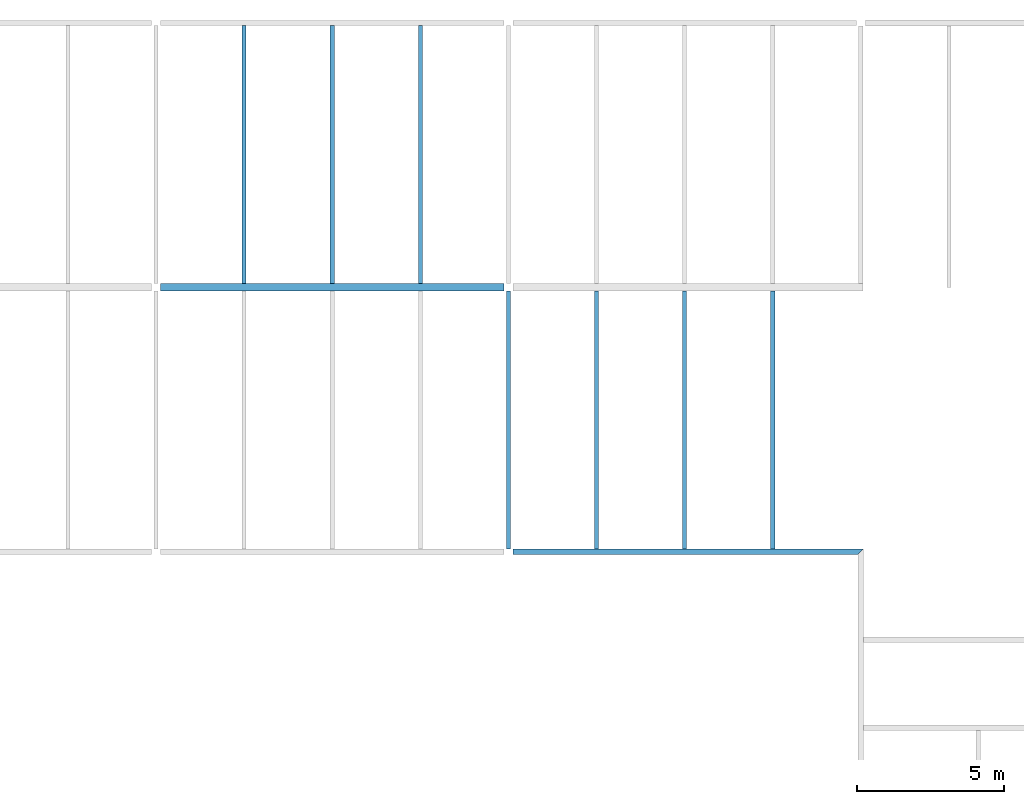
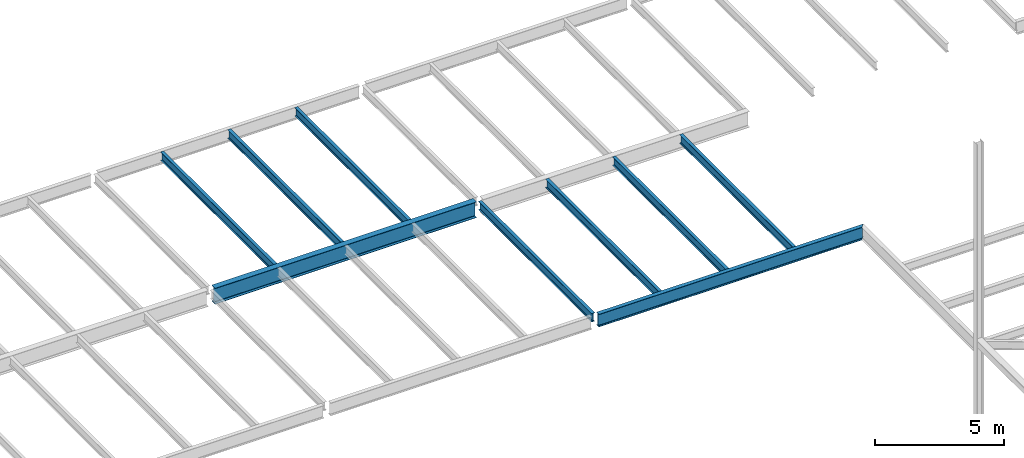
# One storey, part 6 of 21: 9 beams.
"""IFC2X3 building model written with IfcOpenShell, lengths in millimetres."""

import ifcopenshell
import ifcopenshell.guid

model = None  # the IFC model being written
_history = None  # IfcOwnerHistory: only IFC2X3 demands one
_inside = {}  # id of a spatial element -> (the spatial element, [elements in it])
_under = {}  # id of a project, library or spatial element -> (it, [spatial elements below it])
_declared = {}  # id of a project -> (the project, [libraries it declares])
_typed = {}  # id of a type object -> (the type object, [elements of that type])
_made_of = {}  # id of a material, layer set ... -> (it, [elements and type objects made of it])


def new_model(schema):
    """Start an empty IFC model of exactly this schema.

    Asked for "IFC4X3", IfcOpenShell would pick the latest addendum, in which some entities
    have other attributes; the version numbers below select the first issue.
    IFC2X3 requires an IfcOwnerHistory on every rooted entity: one is made here for all.
    """
    global model, _history
    if schema == "IFC4X3":
        model = ifcopenshell.file(schema_version=(4, 3, 0, 0))
    else:
        model = ifcopenshell.file(schema=schema)
    _inside.clear()
    _under.clear()
    _declared.clear()
    _typed.clear()
    _made_of.clear()
    _history = None
    if model.schema == "IFC2X3":
        org = make("IfcOrganization", Name="unknown")
        user = make(
            "IfcPersonAndOrganization",
            ThePerson=make("IfcPerson", FamilyName="unknown"),
            TheOrganization=org,
        )
        app = make(
            "IfcApplication",
            ApplicationDeveloper=org,
            Version="unknown",
            ApplicationFullName="unknown",
            ApplicationIdentifier="unknown",
        )
        _history = make(
            "IfcOwnerHistory",
            OwningUser=user,
            OwningApplication=app,
            ChangeAction="ADDED",
            CreationDate=0,
        )
    return model


def make(cls, **values):
    """One entity of the class cls with the attributes given. An attribute that is None is left unset."""
    return model.create_entity(
        cls, **{name: value for name, value in values.items() if value is not None}
    )


def rooted(cls, **values):
    """An entity with a GlobalId (a new one), such as an element, a storey or a relation."""
    return make(cls, GlobalId=ifcopenshell.guid.new(), OwnerHistory=_history, **values)


def si_unit(unit_type, name, prefix=None):
    """IfcSIUnit, for example si_unit("LENGTHUNIT", "METRE", prefix="MILLI")."""
    return make("IfcSIUnit", UnitType=unit_type, Prefix=prefix, Name=name)


def assignment(units):
    """IfcUnitAssignment: the units of a project."""
    return None if units is None else make("IfcUnitAssignment", Units=units)


def point(xyz):
    """IfcCartesianPoint."""
    return None if xyz is None else make("IfcCartesianPoint", Coordinates=xyz)


def direction(xyz):
    """IfcDirection."""
    return None if xyz is None else make("IfcDirection", DirectionRatios=xyz)


def frame(location, z_axis=None, x_axis=None):
    """IfcAxis2Placement3D, a coordinate frame: its origin and axes. An axis left out is left unset."""
    return make(
        "IfcAxis2Placement3D",
        Location=point(location),
        Axis=direction(z_axis),
        RefDirection=direction(x_axis),
    )


def origin():
    """The frame at (0, 0, 0) with its axes left unset."""
    return frame((0.0, 0.0, 0.0))


def place(relative_to, where):
    """IfcLocalPlacement: puts the frame where relative to a parent placement (None: the world)."""
    return make(
        "IfcLocalPlacement", PlacementRelTo=relative_to, RelativePlacement=where
    )


def context(
    kind, dimensions, precision=None, world=None, true_north=None, identifier=None
):
    """IfcGeometricRepresentationContext, for example the 3D "Model" context."""
    return make(
        "IfcGeometricRepresentationContext",
        ContextIdentifier=identifier,
        ContextType=kind,
        CoordinateSpaceDimension=dimensions,
        Precision=precision,
        WorldCoordinateSystem=world,
        TrueNorth=true_north,
    )


def project(units=None, contexts=None):
    """IfcProject with its units and contexts."""
    return rooted(
        "IfcProject",
        Name="project",
        RepresentationContexts=contexts,
        UnitsInContext=assignment(units),
    )


def spatial(cls, under=None, at=None, **own):
    """A site, building, storey or space (cls), placed at a placement, below another one or the project."""
    s = rooted(cls, ObjectPlacement=at, **own)
    if under is not None:
        _under.setdefault(under.id(), (under, []))[1].append(s)
    return s


def faces_of(points, faces, orient=None, outer=None):
    """IfcFace entities. A face is a list of loops; a loop is a list of indices into points, from 0.

    orient and outer hold one flag for each loop. By default every Orientation is true, the
    first loop of a face is its IfcFaceOuterBound and the others are IfcFaceBound.
    """
    made = []
    for i, loops in enumerate(faces):
        bounds = []
        for j, loop in enumerate(loops):
            is_outer = j == 0 if outer is None else outer[i][j]
            bounds.append(
                make(
                    "IfcFaceOuterBound" if is_outer else "IfcFaceBound",
                    Bound=make("IfcPolyLoop", Polygon=[points[k] for k in loop]),
                    Orientation=True if orient is None else orient[i][j],
                )
            )
        made.append(make("IfcFace", Bounds=bounds))
    return made


def faceted_brep(points, faces, orient=None, outer=None, voids=None):
    """IfcFacetedBrep: a solid bounded by flat faces; with voids (closed shells), ...WithVoids."""
    shared = [point(p) for p in points]
    hull = make("IfcClosedShell", CfsFaces=faces_of(shared, faces, orient, outer))
    if voids is None:
        return make("IfcFacetedBrep", Outer=hull)
    return make(
        "IfcFacetedBrepWithVoids",
        Outer=hull,
        Voids=[
            make(cls, CfsFaces=faces_of(shared, fs, o, b)) for cls, fs, o, b in voids
        ],
    )


def shape(context_of_items, identifier, shape_type, items):
    """IfcShapeRepresentation: the items that make up one representation, for example the "Body"."""
    return make(
        "IfcShapeRepresentation",
        ContextOfItems=context_of_items,
        RepresentationIdentifier=identifier,
        RepresentationType=shape_type,
        Items=items,
    )


def material(Name=None, Category=None):
    """IfcMaterial."""
    return make("IfcMaterial", Name=Name, Category=Category)


def made_of(thing, what):
    """Note that an element or type object is made of a material, layer set ...; save() writes the relation."""
    if what is not None:
        _made_of.setdefault(what.id(), (what, []))[1].append(thing)
    return thing


def element(
    cls,
    number,
    at=None,
    inside=None,
    cuts=None,
    type_object=None,
    material=None,
    context=None,
    identifier="Body",
    shape_type=None,
    held_by="IfcProductDefinitionShape",
    body=None,
    shapes=None,
    **own,
):
    """One element of the class cls, such as IfcWall. Its Tag is "e" and its number.

    at: its placement. inside: the storey or other place that contains it. cuts: it is an
    opening in that element (IfcRelVoidsElement). A single representation is given by context,
    identifier, shape_type and body (its items); several are given by shapes. held_by: the class
    of the entity that holds the representations. save() writes the other relations.
    """
    e = rooted(cls, Tag="e%d" % number, ObjectPlacement=at, **own)
    if body is not None:
        shapes = [shape(context, identifier, shape_type, body)]
    if shapes is not None:
        e.Representation = make(held_by, Representations=shapes)
    if inside is not None:
        _inside.setdefault(inside.id(), (inside, []))[1].append(e)
    if cuts is not None:
        rooted(
            "IfcRelVoidsElement", RelatingBuildingElement=cuts, RelatedOpeningElement=e
        )
    if type_object is not None:
        _typed.setdefault(type_object.id(), (type_object, []))[1].append(e)
    return made_of(e, material)


def aggregate(whole, parts):
    """IfcRelAggregates: a whole, such as a stair, and the parts it consists of."""
    return rooted("IfcRelAggregates", RelatingObject=whole, RelatedObjects=parts)


def save(model, path):
    """Write the relations noted so far, then the file.

    IfcRelAggregates (storeys below a building ...), IfcRelContainedInSpatialStructure (elements
    in a storey), IfcRelDefinesByType, IfcRelAssociatesMaterial and IfcRelDeclares: one each for
    every whole, place, type object, material and project.
    """
    for whole, parts in _under.values():
        aggregate(whole, parts)
    for where, things in _inside.values():
        rooted(
            "IfcRelContainedInSpatialStructure",
            RelatedElements=things,
            RelatingStructure=where,
        )
    for kind, things in _typed.values():
        rooted("IfcRelDefinesByType", RelatedObjects=things, RelatingType=kind)
    for what, things in _made_of.values():
        rooted("IfcRelAssociatesMaterial", RelatedObjects=things, RelatingMaterial=what)
    for by, libraries in _declared.values():
        rooted("IfcRelDeclares", RelatingContext=by, RelatedDefinitions=libraries)
    model.write(path)


model = new_model("IFC2X3")

# Units and contexts
context_of_model = context(None, 3, precision=1e-05, world=origin())
ifc_project = project(units=[si_unit("LENGTHUNIT", "METRE", prefix="MILLI")], contexts=[context_of_model])

# Building, storey
building = spatial("IfcBuilding", under=ifc_project, Name="Building", CompositionType="ELEMENT")
storey = spatial("IfcBuildingStorey", under=building, Name="FL6-FRM", CompositionType="ELEMENT")

# Beams
ifc_material_1 = material(Name="A992")
beam_1_placement = place(None, origin())
element("IfcBeam", 1, at=beam_1_placement, inside=storey, material=ifc_material_1, Name="Column440", context=context_of_model, shape_type="Brep", body=[
    faceted_brep([(-23846.0, 26867.5, 21620.0), (-23846.0, 27132.5, 21620.0), (-12154.0, 27132.5, 21620.0), (-12154.0, 26867.5, 21620.0), (-23846.0, 27132.5, 21637.0), (-12154.0, 27132.5, 21637.0), (-23846.0, 27023.1, 21637.0), (-12154.0, 27023.1, 21637.0), (-23846.0, 27018.8, 21637.6), (-12154.0, 27018.8, 21637.6), (-23846.0, 27014.8, 21639.2), (-12154.0, 27014.8, 21639.2), (-23846.0, 27011.4, 21641.8), (-12154.0, 27011.4, 21641.8), (-23846.0, 27008.8, 21645.2), (-12154.0, 27008.8, 21645.2), (-23846.0, 27007.2, 21649.2), (-12154.0, 27007.2, 21649.2), (-23846.0, 27006.6, 21653.5), (-12154.0, 27006.6, 21653.5), (-23846.0, 27006.6, 22339.5), (-12154.0, 27006.6, 22339.5), (-23846.0, 27007.2, 22343.8), (-12154.0, 27007.2, 22343.8), (-23846.0, 27008.8, 22347.8), (-12154.0, 27008.8, 22347.8), (-23846.0, 27011.4, 22351.2), (-12154.0, 27011.4, 22351.2), (-23846.0, 27014.8, 22353.8), (-12154.0, 27014.8, 22353.8), (-23846.0, 27018.8, 22355.4), (-12154.0, 27018.8, 22355.4), (-23846.0, 27023.1, 22356.0), (-12154.0, 27023.1, 22356.0), (-23846.0, 27132.5, 22356.0), (-12154.0, 27132.5, 22356.0), (-23846.0, 27132.5, 22373.0), (-12154.0, 27132.5, 22373.0), (-23846.0, 26867.5, 22373.0), (-12154.0, 26867.5, 22373.0), (-23846.0, 26867.5, 22356.0), (-12154.0, 26867.5, 22356.0), (-23846.0, 26976.9, 22356.0), (-12154.0, 26976.9, 22356.0), (-23846.0, 26981.2, 22355.4), (-12154.0, 26981.2, 22355.4), (-23846.0, 26985.2, 22353.8), (-12154.0, 26985.2, 22353.8), (-23846.0, 26988.6, 22351.2), (-12154.0, 26988.6, 22351.2), (-23846.0, 26991.2, 22347.8), (-12154.0, 26991.2, 22347.8), (-23846.0, 26992.8, 22343.8), (-12154.0, 26992.8, 22343.8), (-23846.0, 26993.4, 22339.5), (-12154.0, 26993.4, 22339.5), (-23846.0, 26993.4, 21653.5), (-12154.0, 26993.4, 21653.5), (-23846.0, 26992.8, 21649.2), (-12154.0, 26992.8, 21649.2), (-23846.0, 26991.2, 21645.3), (-12154.0, 26991.2, 21645.3), (-23846.0, 26988.6, 21641.8), (-12154.0, 26988.6, 21641.8), (-23846.0, 26985.2, 21639.2), (-12154.0, 26985.2, 21639.2), (-23846.0, 26981.2, 21637.6), (-12154.0, 26981.2, 21637.6), (-23846.0, 26976.9, 21637.0), (-12154.0, 26976.9, 21637.0), (-23846.0, 26867.5, 21637.0), (-12154.0, 26867.5, 21637.0)], [[[0, 1, 2, 3]], [[1, 4, 5, 2]], [[4, 6, 7, 5]], [[6, 8, 9, 7]], [[8, 10, 11, 9]], [[10, 12, 13, 11]], [[12, 14, 15, 13]], [[14, 16, 17, 15]], [[16, 18, 19, 17]], [[18, 20, 21, 19]], [[20, 22, 23, 21]], [[22, 24, 25, 23]], [[24, 26, 27, 25]], [[26, 28, 29, 27]], [[28, 30, 31, 29]], [[30, 32, 33, 31]], [[32, 34, 35, 33]], [[34, 36, 37, 35]], [[36, 38, 39, 37]], [[38, 40, 41, 39]], [[40, 42, 43, 41]], [[42, 44, 45, 43]], [[44, 46, 47, 45]], [[46, 48, 49, 47]], [[48, 50, 51, 49]], [[50, 52, 53, 51]], [[52, 54, 55, 53]], [[54, 56, 57, 55]], [[56, 58, 59, 57]], [[58, 60, 61, 59]], [[60, 62, 63, 61]], [[62, 64, 65, 63]], [[64, 66, 67, 65]], [[66, 68, 69, 67]], [[68, 70, 71, 69]], [[70, 0, 3, 71]], [[0, 70, 68, 66, 64, 62, 60, 58, 56, 54, 52, 50, 48, 46, 44, 42, 40, 38, 36, 34, 32, 30, 28, 26, 24, 22, 20, 18, 16, 14, 12, 10, 8, 6, 4, 1]], [[3, 2, 5, 7, 9, 11, 13, 15, 17, 19, 21, 23, 25, 27, 29, 31, 33, 35, 37, 39, 41, 43, 45, 47, 49, 51, 53, 55, 57, 59, 61, 63, 65, 67, 69, 71]]]),
])
ifc_material_2 = material(Name="A992")
beam_2_placement = place(None, origin())
element("IfcBeam", 2, at=beam_2_placement, inside=storey, material=ifc_material_2, Name="B362", context=context_of_model, shape_type="Brep", body=[
    faceted_brep([(-21070.0, 35910.5, 21970.0), (-20930.0, 35910.5, 21970.0), (-20930.0, 27132.5, 21970.0), (-21070.0, 27132.5, 21970.0), (-20930.0, 35910.5, 21981.2), (-20930.0, 27132.5, 21981.2), (-20986.3, 35910.5, 21981.2), (-20986.3, 27132.5, 21981.2), (-20988.9, 35910.5, 21981.5), (-20988.9, 27132.5, 21981.5), (-20991.4, 35910.5, 21982.6), (-20991.4, 27132.5, 21982.6), (-20993.5, 35910.5, 21984.2), (-20993.5, 27132.5, 21984.2), (-20995.1, 35910.5, 21986.3), (-20995.1, 27132.5, 21986.3), (-20996.2, 35910.5, 21988.8), (-20996.2, 27132.5, 21988.8), (-20996.5, 35910.5, 21991.4), (-20996.5, 27132.5, 21991.4), (-20996.5, 35910.5, 22351.6), (-20996.5, 27132.5, 22351.6), (-20996.2, 35910.5, 22354.2), (-20996.2, 27132.5, 22354.2), (-20995.1, 35910.5, 22356.7), (-20995.1, 27132.5, 22356.7), (-20993.5, 35910.5, 22358.8), (-20993.5, 27132.5, 22358.8), (-20991.4, 35910.5, 22360.4), (-20991.4, 27132.5, 22360.4), (-20988.9, 35910.5, 22361.5), (-20988.9, 27132.5, 22361.5), (-20986.3, 35910.5, 22361.8), (-20986.3, 27132.5, 22361.8), (-20930.0, 35910.5, 22361.8), (-20930.0, 27132.5, 22361.8), (-20930.0, 35910.5, 22373.0), (-20930.0, 27132.5, 22373.0), (-21070.0, 35910.5, 22373.0), (-21070.0, 27132.5, 22373.0), (-21070.0, 35910.5, 22361.8), (-21070.0, 27132.5, 22361.8), (-21013.7, 35910.5, 22361.8), (-21013.7, 27132.5, 22361.8), (-21011.1, 35910.5, 22361.5), (-21011.1, 27132.5, 22361.5), (-21008.6, 35910.5, 22360.4), (-21008.6, 27132.5, 22360.4), (-21006.5, 35910.5, 22358.8), (-21006.5, 27132.5, 22358.8), (-21004.9, 35910.5, 22356.7), (-21004.9, 27132.5, 22356.7), (-21003.8, 35910.5, 22354.2), (-21003.8, 27132.5, 22354.2), (-21003.5, 35910.5, 22351.6), (-21003.5, 27132.5, 22351.6), (-21003.5, 35910.5, 21991.4), (-21003.5, 27132.5, 21991.4), (-21003.8, 35910.5, 21988.8), (-21003.8, 27132.5, 21988.8), (-21004.9, 35910.5, 21986.3), (-21004.9, 27132.5, 21986.3), (-21006.5, 35910.5, 21984.2), (-21006.5, 27132.5, 21984.2), (-21008.6, 35910.5, 21982.6), (-21008.6, 27132.5, 21982.6), (-21011.1, 35910.5, 21981.5), (-21011.1, 27132.5, 21981.5), (-21013.7, 35910.5, 21981.2), (-21013.7, 27132.5, 21981.2), (-21070.0, 35910.5, 21981.2), (-21070.0, 27132.5, 21981.2)], [[[0, 1, 2, 3]], [[1, 4, 5, 2]], [[4, 6, 7, 5]], [[6, 8, 9, 7]], [[8, 10, 11, 9]], [[10, 12, 13, 11]], [[12, 14, 15, 13]], [[14, 16, 17, 15]], [[16, 18, 19, 17]], [[18, 20, 21, 19]], [[20, 22, 23, 21]], [[22, 24, 25, 23]], [[24, 26, 27, 25]], [[26, 28, 29, 27]], [[28, 30, 31, 29]], [[30, 32, 33, 31]], [[32, 34, 35, 33]], [[34, 36, 37, 35]], [[36, 38, 39, 37]], [[38, 40, 41, 39]], [[40, 42, 43, 41]], [[42, 44, 45, 43]], [[44, 46, 47, 45]], [[46, 48, 49, 47]], [[48, 50, 51, 49]], [[50, 52, 53, 51]], [[52, 54, 55, 53]], [[54, 56, 57, 55]], [[56, 58, 59, 57]], [[58, 60, 61, 59]], [[60, 62, 63, 61]], [[62, 64, 65, 63]], [[64, 66, 67, 65]], [[66, 68, 69, 67]], [[68, 70, 71, 69]], [[70, 0, 3, 71]], [[0, 70, 68, 66, 64, 62, 60, 58, 56, 54, 52, 50, 48, 46, 44, 42, 40, 38, 36, 34, 32, 30, 28, 26, 24, 22, 20, 18, 16, 14, 12, 10, 8, 6, 4, 1]], [[3, 2, 5, 7, 9, 11, 13, 15, 17, 19, 21, 23, 25, 27, 29, 31, 33, 35, 37, 39, 41, 43, 45, 47, 49, 51, 53, 55, 57, 59, 61, 63, 65, 67, 69, 71]]]),
])
ifc_material_3 = material(Name="A992")
beam_3_placement = place(None, origin())
element("IfcBeam", 3, at=beam_3_placement, inside=storey, material=ifc_material_3, Name="B363", context=context_of_model, shape_type="Brep", body=[
    faceted_brep([(-18070.0, 35910.5, 21970.0), (-17930.0, 35910.5, 21970.0), (-17930.0, 27132.5, 21970.0), (-18070.0, 27132.5, 21970.0), (-17930.0, 35910.5, 21981.2), (-17930.0, 27132.5, 21981.2), (-17986.3, 35910.5, 21981.2), (-17986.3, 27132.5, 21981.2), (-17988.9, 35910.5, 21981.5), (-17988.9, 27132.5, 21981.5), (-17991.4, 35910.5, 21982.6), (-17991.4, 27132.5, 21982.6), (-17993.5, 35910.5, 21984.2), (-17993.5, 27132.5, 21984.2), (-17995.1, 35910.5, 21986.3), (-17995.1, 27132.5, 21986.3), (-17996.2, 35910.5, 21988.8), (-17996.2, 27132.5, 21988.8), (-17996.5, 35910.5, 21991.4), (-17996.5, 27132.5, 21991.4), (-17996.5, 35910.5, 22351.6), (-17996.5, 27132.5, 22351.6), (-17996.2, 35910.5, 22354.2), (-17996.2, 27132.5, 22354.2), (-17995.1, 35910.5, 22356.7), (-17995.1, 27132.5, 22356.7), (-17993.5, 35910.5, 22358.8), (-17993.5, 27132.5, 22358.8), (-17991.4, 35910.5, 22360.4), (-17991.4, 27132.5, 22360.4), (-17988.9, 35910.5, 22361.5), (-17988.9, 27132.5, 22361.5), (-17986.3, 35910.5, 22361.8), (-17986.3, 27132.5, 22361.8), (-17930.0, 35910.5, 22361.8), (-17930.0, 27132.5, 22361.8), (-17930.0, 35910.5, 22373.0), (-17930.0, 27132.5, 22373.0), (-18070.0, 35910.5, 22373.0), (-18070.0, 27132.5, 22373.0), (-18070.0, 35910.5, 22361.8), (-18070.0, 27132.5, 22361.8), (-18013.7, 35910.5, 22361.8), (-18013.7, 27132.5, 22361.8), (-18011.1, 35910.5, 22361.5), (-18011.1, 27132.5, 22361.5), (-18008.6, 35910.5, 22360.4), (-18008.6, 27132.5, 22360.4), (-18006.5, 35910.5, 22358.8), (-18006.5, 27132.5, 22358.8), (-18004.9, 35910.5, 22356.7), (-18004.9, 27132.5, 22356.7), (-18003.8, 35910.5, 22354.2), (-18003.8, 27132.5, 22354.2), (-18003.5, 35910.5, 22351.6), (-18003.5, 27132.5, 22351.6), (-18003.5, 35910.5, 21991.4), (-18003.5, 27132.5, 21991.4), (-18003.8, 35910.5, 21988.8), (-18003.8, 27132.5, 21988.8), (-18004.9, 35910.5, 21986.3), (-18004.9, 27132.5, 21986.3), (-18006.5, 35910.5, 21984.2), (-18006.5, 27132.5, 21984.2), (-18008.6, 35910.5, 21982.6), (-18008.6, 27132.5, 21982.6), (-18011.1, 35910.5, 21981.5), (-18011.1, 27132.5, 21981.5), (-18013.7, 35910.5, 21981.2), (-18013.7, 27132.5, 21981.2), (-18070.0, 35910.5, 21981.2), (-18070.0, 27132.5, 21981.2)], [[[0, 1, 2, 3]], [[1, 4, 5, 2]], [[4, 6, 7, 5]], [[6, 8, 9, 7]], [[8, 10, 11, 9]], [[10, 12, 13, 11]], [[12, 14, 15, 13]], [[14, 16, 17, 15]], [[16, 18, 19, 17]], [[18, 20, 21, 19]], [[20, 22, 23, 21]], [[22, 24, 25, 23]], [[24, 26, 27, 25]], [[26, 28, 29, 27]], [[28, 30, 31, 29]], [[30, 32, 33, 31]], [[32, 34, 35, 33]], [[34, 36, 37, 35]], [[36, 38, 39, 37]], [[38, 40, 41, 39]], [[40, 42, 43, 41]], [[42, 44, 45, 43]], [[44, 46, 47, 45]], [[46, 48, 49, 47]], [[48, 50, 51, 49]], [[50, 52, 53, 51]], [[52, 54, 55, 53]], [[54, 56, 57, 55]], [[56, 58, 59, 57]], [[58, 60, 61, 59]], [[60, 62, 63, 61]], [[62, 64, 65, 63]], [[64, 66, 67, 65]], [[66, 68, 69, 67]], [[68, 70, 71, 69]], [[70, 0, 3, 71]], [[0, 70, 68, 66, 64, 62, 60, 58, 56, 54, 52, 50, 48, 46, 44, 42, 40, 38, 36, 34, 32, 30, 28, 26, 24, 22, 20, 18, 16, 14, 12, 10, 8, 6, 4, 1]], [[3, 2, 5, 7, 9, 11, 13, 15, 17, 19, 21, 23, 25, 27, 29, 31, 33, 35, 37, 39, 41, 43, 45, 47, 49, 51, 53, 55, 57, 59, 61, 63, 65, 67, 69, 71]]]),
])
ifc_material_4 = material(Name="A992")
beam_4_placement = place(None, origin())
element("IfcBeam", 4, at=beam_4_placement, inside=storey, material=ifc_material_4, Name="B364", context=context_of_model, shape_type="Brep", body=[
    faceted_brep([(-15070.0, 35910.5, 21970.0), (-14930.0, 35910.5, 21970.0), (-14930.0, 27132.5, 21970.0), (-15070.0, 27132.5, 21970.0), (-14930.0, 35910.5, 21981.2), (-14930.0, 27132.5, 21981.2), (-14986.3, 35910.5, 21981.2), (-14986.3, 27132.5, 21981.2), (-14988.9, 35910.5, 21981.5), (-14988.9, 27132.5, 21981.5), (-14991.4, 35910.5, 21982.6), (-14991.4, 27132.5, 21982.6), (-14993.5, 35910.5, 21984.2), (-14993.5, 27132.5, 21984.2), (-14995.1, 35910.5, 21986.3), (-14995.1, 27132.5, 21986.3), (-14996.2, 35910.5, 21988.8), (-14996.2, 27132.5, 21988.8), (-14996.5, 35910.5, 21991.4), (-14996.5, 27132.5, 21991.4), (-14996.5, 35910.5, 22351.6), (-14996.5, 27132.5, 22351.6), (-14996.2, 35910.5, 22354.2), (-14996.2, 27132.5, 22354.2), (-14995.1, 35910.5, 22356.7), (-14995.1, 27132.5, 22356.7), (-14993.5, 35910.5, 22358.8), (-14993.5, 27132.5, 22358.8), (-14991.4, 35910.5, 22360.4), (-14991.4, 27132.5, 22360.4), (-14988.9, 35910.5, 22361.5), (-14988.9, 27132.5, 22361.5), (-14986.3, 35910.5, 22361.8), (-14986.3, 27132.5, 22361.8), (-14930.0, 35910.5, 22361.8), (-14930.0, 27132.5, 22361.8), (-14930.0, 35910.5, 22373.0), (-14930.0, 27132.5, 22373.0), (-15070.0, 35910.5, 22373.0), (-15070.0, 27132.5, 22373.0), (-15070.0, 35910.5, 22361.8), (-15070.0, 27132.5, 22361.8), (-15013.7, 35910.5, 22361.8), (-15013.7, 27132.5, 22361.8), (-15011.1, 35910.5, 22361.5), (-15011.1, 27132.5, 22361.5), (-15008.6, 35910.5, 22360.4), (-15008.6, 27132.5, 22360.4), (-15006.5, 35910.5, 22358.8), (-15006.5, 27132.5, 22358.8), (-15004.9, 35910.5, 22356.7), (-15004.9, 27132.5, 22356.7), (-15003.8, 35910.5, 22354.2), (-15003.8, 27132.5, 22354.2), (-15003.5, 35910.5, 22351.6), (-15003.5, 27132.5, 22351.6), (-15003.5, 35910.5, 21991.4), (-15003.5, 27132.5, 21991.4), (-15003.8, 35910.5, 21988.8), (-15003.8, 27132.5, 21988.8), (-15004.9, 35910.5, 21986.3), (-15004.9, 27132.5, 21986.3), (-15006.5, 35910.5, 21984.2), (-15006.5, 27132.5, 21984.2), (-15008.6, 35910.5, 21982.6), (-15008.6, 27132.5, 21982.6), (-15011.1, 35910.5, 21981.5), (-15011.1, 27132.5, 21981.5), (-15013.7, 35910.5, 21981.2), (-15013.7, 27132.5, 21981.2), (-15070.0, 35910.5, 21981.2), (-15070.0, 27132.5, 21981.2)], [[[0, 1, 2, 3]], [[1, 4, 5, 2]], [[4, 6, 7, 5]], [[6, 8, 9, 7]], [[8, 10, 11, 9]], [[10, 12, 13, 11]], [[12, 14, 15, 13]], [[14, 16, 17, 15]], [[16, 18, 19, 17]], [[18, 20, 21, 19]], [[20, 22, 23, 21]], [[22, 24, 25, 23]], [[24, 26, 27, 25]], [[26, 28, 29, 27]], [[28, 30, 31, 29]], [[30, 32, 33, 31]], [[32, 34, 35, 33]], [[34, 36, 37, 35]], [[36, 38, 39, 37]], [[38, 40, 41, 39]], [[40, 42, 43, 41]], [[42, 44, 45, 43]], [[44, 46, 47, 45]], [[46, 48, 49, 47]], [[48, 50, 51, 49]], [[50, 52, 53, 51]], [[52, 54, 55, 53]], [[54, 56, 57, 55]], [[56, 58, 59, 57]], [[58, 60, 61, 59]], [[60, 62, 63, 61]], [[62, 64, 65, 63]], [[64, 66, 67, 65]], [[66, 68, 69, 67]], [[68, 70, 71, 69]], [[70, 0, 3, 71]], [[0, 70, 68, 66, 64, 62, 60, 58, 56, 54, 52, 50, 48, 46, 44, 42, 40, 38, 36, 34, 32, 30, 28, 26, 24, 22, 20, 18, 16, 14, 12, 10, 8, 6, 4, 1]], [[3, 2, 5, 7, 9, 11, 13, 15, 17, 19, 21, 23, 25, 27, 29, 31, 33, 35, 37, 39, 41, 43, 45, 47, 49, 51, 53, 55, 57, 59, 61, 63, 65, 67, 69, 71]]]),
])
ifc_material_5 = material(Name="A992")
beam_5_placement = place(None, origin())
element("IfcBeam", 5, at=beam_5_placement, inside=storey, material=ifc_material_5, Name="Column450", context=context_of_model, shape_type="Brep", body=[
    faceted_brep([(-11847.0, 17910.5, 21770.0), (-11847.0, 18089.5, 21770.0), (89.5, 18089.5, 21770.0), (-89.5, 17910.5, 21770.0), (-11847.0, 18089.5, 21785.0), (89.5, 18089.5, 21785.0), (-11847.0, 18020.6, 21785.0), (20.65, 18020.6, 21785.0), (-11847.0, 18018.3, 21785.2), (18.2948, 18018.3, 21785.2), (-11847.0, 18016.0, 21785.7), (15.9715, 18016.0, 21785.7), (-11847.0, 18013.7, 21786.7), (13.79, 18013.8, 21786.6), (-11847.0, 18011.7, 21787.9), (11.7678, 18011.8, 21787.8), (-11847.0, 18009.9, 21789.5), (9.90198, 18009.9, 21789.5), (-11847.0, 18008.4, 21791.3), (8.40658, 18008.4, 21791.2), (-11847.0, 18007.1, 21793.3), (7.12308, 18007.1, 21793.2), (-11847.0, 18006.2, 21795.5), (6.22803, 18006.2, 21795.5), (-11847.0, 18005.6, 21797.8), (5.68758, 18005.7, 21797.8), (-11847.0, 18005.4, 21800.2), (5.45, 18005.4, 21800.2), (-11847.0, 18005.4, 22342.8), (5.45, 18005.4, 22342.8), (-11847.0, 18005.6, 22345.2), (5.68758, 18005.7, 22345.2), (-11847.0, 18006.2, 22347.5), (6.22803, 18006.2, 22347.5), (-11847.0, 18007.1, 22349.7), (7.12308, 18007.1, 22349.8), (-11847.0, 18008.4, 22351.7), (8.40658, 18008.4, 22351.8), (-11847.0, 18009.9, 22353.5), (9.90198, 18009.9, 22353.5), (-11847.0, 18011.7, 22355.1), (11.7678, 18011.8, 22355.2), (-11847.0, 18013.7, 22356.3), (13.79, 18013.8, 22356.4), (-11847.0, 18016.0, 22357.3), (15.9715, 18016.0, 22357.3), (-11847.0, 18018.3, 22357.8), (18.2948, 18018.3, 22357.8), (-11847.0, 18020.6, 22358.0), (20.65, 18020.6, 22358.0), (-11847.0, 18089.5, 22358.0), (89.5, 18089.5, 22358.0), (-11847.0, 18089.5, 22373.0), (89.5, 18089.5, 22373.0), (-11847.0, 17910.5, 22373.0), (-89.5, 17910.5, 22373.0), (-11847.0, 17910.5, 22358.0), (-89.5, 17910.5, 22358.0), (-11847.0, 17979.4, 22358.0), (-20.65, 17979.4, 22358.0), (-11847.0, 17981.7, 22357.8), (-18.2948, 17981.7, 22357.8), (-11847.0, 17984.0, 22357.3), (-15.9715, 17984.0, 22357.3), (-11847.0, 17986.3, 22356.3), (-13.79, 17986.2, 22356.4), (-11847.0, 17988.3, 22355.1), (-11.7678, 17988.2, 22355.2), (-11847.0, 17990.1, 22353.5), (-9.90198, 17990.1, 22353.5), (-11847.0, 17991.6, 22351.7), (-8.40658, 17991.6, 22351.8), (-11847.0, 17992.9, 22349.7), (-7.12308, 17992.9, 22349.8), (-11847.0, 17993.8, 22347.5), (-6.22803, 17993.8, 22347.5), (-11847.0, 17994.4, 22345.2), (-5.68758, 17994.3, 22345.2), (-11847.0, 17994.6, 22342.8), (-5.45, 17994.6, 22342.8), (-11847.0, 17994.6, 21800.2), (-5.45, 17994.6, 21800.2), (-11847.0, 17994.4, 21797.8), (-5.68758, 17994.3, 21797.8), (-11847.0, 17993.8, 21795.5), (-6.22803, 17993.8, 21795.5), (-11847.0, 17992.9, 21793.3), (-7.12308, 17992.9, 21793.2), (-11847.0, 17991.6, 21791.3), (-8.40658, 17991.6, 21791.2), (-11847.0, 17990.1, 21789.5), (-9.90198, 17990.1, 21789.5), (-11847.0, 17988.3, 21787.9), (-11.7678, 17988.2, 21787.8), (-11847.0, 17986.3, 21786.7), (-13.79, 17986.2, 21786.6), (-11847.0, 17984.0, 21785.7), (-15.9715, 17984.0, 21785.7), (-11847.0, 17981.7, 21785.2), (-18.2948, 17981.7, 21785.2), (-11847.0, 17979.4, 21785.0), (-20.65, 17979.4, 21785.0), (-11847.0, 17910.5, 21785.0), (-89.5, 17910.5, 21785.0)], [[[0, 1, 2, 3]], [[1, 4, 5, 2]], [[4, 6, 7, 5]], [[6, 8, 9, 7]], [[8, 10, 11, 9]], [[10, 12, 13, 11]], [[12, 14, 15, 13]], [[14, 16, 17, 15]], [[16, 18, 19, 17]], [[18, 20, 21, 19]], [[20, 22, 23, 21]], [[22, 24, 25, 23]], [[24, 26, 27, 25]], [[26, 28, 29, 27]], [[28, 30, 31, 29]], [[30, 32, 33, 31]], [[32, 34, 35, 33]], [[34, 36, 37, 35]], [[36, 38, 39, 37]], [[38, 40, 41, 39]], [[40, 42, 43, 41]], [[42, 44, 45, 43]], [[44, 46, 47, 45]], [[46, 48, 49, 47]], [[48, 50, 51, 49]], [[50, 52, 53, 51]], [[52, 54, 55, 53]], [[54, 56, 57, 55]], [[56, 58, 59, 57]], [[58, 60, 61, 59]], [[60, 62, 63, 61]], [[62, 64, 65, 63]], [[64, 66, 67, 65]], [[66, 68, 69, 67]], [[68, 70, 71, 69]], [[70, 72, 73, 71]], [[72, 74, 75, 73]], [[74, 76, 77, 75]], [[76, 78, 79, 77]], [[78, 80, 81, 79]], [[80, 82, 83, 81]], [[82, 84, 85, 83]], [[84, 86, 87, 85]], [[86, 88, 89, 87]], [[88, 90, 91, 89]], [[90, 92, 93, 91]], [[92, 94, 95, 93]], [[94, 96, 97, 95]], [[96, 98, 99, 97]], [[98, 100, 101, 99]], [[100, 102, 103, 101]], [[102, 0, 3, 103]], [[0, 102, 100, 98, 96, 94, 92, 90, 88, 86, 84, 82, 80, 78, 76, 74, 72, 70, 68, 66, 64, 62, 60, 58, 56, 54, 52, 50, 48, 46, 44, 42, 40, 38, 36, 34, 32, 30, 28, 26, 24, 22, 20, 18, 16, 14, 12, 10, 8, 6, 4, 1]], [[3, 2, 5, 7, 9, 11, 13, 15, 17, 19, 21, 23, 25, 27, 29, 31, 33, 35, 37, 39, 41, 43, 45, 47, 49, 51, 53, 55, 57, 59, 61, 63, 65, 67, 69, 71, 73, 75, 77, 79, 81, 83, 85, 87, 89, 91, 93, 95, 97, 99, 101, 103]]]),
])
ifc_material_6 = material(Name="A992")
beam_6_placement = place(None, origin())
element("IfcBeam", 6, at=beam_6_placement, inside=storey, material=ifc_material_6, Name="B377", context=context_of_model, shape_type="Brep", body=[
    faceted_brep([(-2930.0, 18089.5, 21970.0), (-3070.0, 18089.5, 21970.0), (-3070.0, 26867.5, 21970.0), (-2930.0, 26867.5, 21970.0), (-3070.0, 18089.5, 21981.2), (-3070.0, 26867.5, 21981.2), (-3013.7, 18089.5, 21981.2), (-3013.7, 26867.5, 21981.2), (-3011.06, 18089.5, 21981.5), (-3011.06, 26867.5, 21981.5), (-3008.6, 18089.5, 21982.6), (-3008.6, 26867.5, 21982.6), (-3006.49, 18089.5, 21984.2), (-3006.49, 26867.5, 21984.2), (-3004.87, 18089.5, 21986.3), (-3004.87, 26867.5, 21986.3), (-3003.85, 18089.5, 21988.8), (-3003.85, 26867.5, 21988.8), (-3003.5, 18089.5, 21991.4), (-3003.5, 26867.5, 21991.4), (-3003.5, 18089.5, 22351.6), (-3003.5, 26867.5, 22351.6), (-3003.85, 18089.5, 22354.2), (-3003.85, 26867.5, 22354.2), (-3004.87, 18089.5, 22356.7), (-3004.87, 26867.5, 22356.7), (-3006.49, 18089.5, 22358.8), (-3006.49, 26867.5, 22358.8), (-3008.6, 18089.5, 22360.4), (-3008.6, 26867.5, 22360.4), (-3011.06, 18089.5, 22361.5), (-3011.06, 26867.5, 22361.5), (-3013.7, 18089.5, 22361.8), (-3013.7, 26867.5, 22361.8), (-3070.0, 18089.5, 22361.8), (-3070.0, 26867.5, 22361.8), (-3070.0, 18089.5, 22373.0), (-3070.0, 26867.5, 22373.0), (-2930.0, 18089.5, 22373.0), (-2930.0, 26867.5, 22373.0), (-2930.0, 18089.5, 22361.8), (-2930.0, 26867.5, 22361.8), (-2986.3, 18089.5, 22361.8), (-2986.3, 26867.5, 22361.8), (-2988.94, 18089.5, 22361.5), (-2988.94, 26867.5, 22361.5), (-2991.4, 18089.5, 22360.4), (-2991.4, 26867.5, 22360.4), (-2993.51, 18089.5, 22358.8), (-2993.51, 26867.5, 22358.8), (-2995.13, 18089.5, 22356.7), (-2995.13, 26867.5, 22356.7), (-2996.15, 18089.5, 22354.2), (-2996.15, 26867.5, 22354.2), (-2996.5, 18089.5, 22351.6), (-2996.5, 26867.5, 22351.6), (-2996.5, 18089.5, 21991.4), (-2996.5, 26867.5, 21991.4), (-2996.15, 18089.5, 21988.8), (-2996.15, 26867.5, 21988.8), (-2995.13, 18089.5, 21986.3), (-2995.13, 26867.5, 21986.3), (-2993.51, 18089.5, 21984.2), (-2993.51, 26867.5, 21984.2), (-2991.4, 18089.5, 21982.6), (-2991.4, 26867.5, 21982.6), (-2988.94, 18089.5, 21981.5), (-2988.94, 26867.5, 21981.5), (-2986.3, 18089.5, 21981.2), (-2986.3, 26867.5, 21981.2), (-2930.0, 18089.5, 21981.2), (-2930.0, 26867.5, 21981.2)], [[[0, 1, 2, 3]], [[1, 4, 5, 2]], [[4, 6, 7, 5]], [[6, 8, 9, 7]], [[8, 10, 11, 9]], [[10, 12, 13, 11]], [[12, 14, 15, 13]], [[14, 16, 17, 15]], [[16, 18, 19, 17]], [[18, 20, 21, 19]], [[20, 22, 23, 21]], [[22, 24, 25, 23]], [[24, 26, 27, 25]], [[26, 28, 29, 27]], [[28, 30, 31, 29]], [[30, 32, 33, 31]], [[32, 34, 35, 33]], [[34, 36, 37, 35]], [[36, 38, 39, 37]], [[38, 40, 41, 39]], [[40, 42, 43, 41]], [[42, 44, 45, 43]], [[44, 46, 47, 45]], [[46, 48, 49, 47]], [[48, 50, 51, 49]], [[50, 52, 53, 51]], [[52, 54, 55, 53]], [[54, 56, 57, 55]], [[56, 58, 59, 57]], [[58, 60, 61, 59]], [[60, 62, 63, 61]], [[62, 64, 65, 63]], [[64, 66, 67, 65]], [[66, 68, 69, 67]], [[68, 70, 71, 69]], [[70, 0, 3, 71]], [[0, 70, 68, 66, 64, 62, 60, 58, 56, 54, 52, 50, 48, 46, 44, 42, 40, 38, 36, 34, 32, 30, 28, 26, 24, 22, 20, 18, 16, 14, 12, 10, 8, 6, 4, 1]], [[3, 2, 5, 7, 9, 11, 13, 15, 17, 19, 21, 23, 25, 27, 29, 31, 33, 35, 37, 39, 41, 43, 45, 47, 49, 51, 53, 55, 57, 59, 61, 63, 65, 67, 69, 71]]]),
])
ifc_material_7 = material(Name="A992")
beam_7_placement = place(None, origin())
element("IfcBeam", 7, at=beam_7_placement, inside=storey, material=ifc_material_7, Name="B378", context=context_of_model, shape_type="Brep", body=[
    faceted_brep([(-5930.0, 18089.5, 21970.0), (-6070.0, 18089.5, 21970.0), (-6070.0, 26867.5, 21970.0), (-5930.0, 26867.5, 21970.0), (-6070.0, 18089.5, 21981.2), (-6070.0, 26867.5, 21981.2), (-6013.7, 18089.5, 21981.2), (-6013.7, 26867.5, 21981.2), (-6011.06, 18089.5, 21981.5), (-6011.06, 26867.5, 21981.5), (-6008.6, 18089.5, 21982.6), (-6008.6, 26867.5, 21982.6), (-6006.49, 18089.5, 21984.2), (-6006.49, 26867.5, 21984.2), (-6004.87, 18089.5, 21986.3), (-6004.87, 26867.5, 21986.3), (-6003.85, 18089.5, 21988.8), (-6003.85, 26867.5, 21988.8), (-6003.5, 18089.5, 21991.4), (-6003.5, 26867.5, 21991.4), (-6003.5, 18089.5, 22351.6), (-6003.5, 26867.5, 22351.6), (-6003.85, 18089.5, 22354.2), (-6003.85, 26867.5, 22354.2), (-6004.87, 18089.5, 22356.7), (-6004.87, 26867.5, 22356.7), (-6006.49, 18089.5, 22358.8), (-6006.49, 26867.5, 22358.8), (-6008.6, 18089.5, 22360.4), (-6008.6, 26867.5, 22360.4), (-6011.06, 18089.5, 22361.5), (-6011.06, 26867.5, 22361.5), (-6013.7, 18089.5, 22361.8), (-6013.7, 26867.5, 22361.8), (-6070.0, 18089.5, 22361.8), (-6070.0, 26867.5, 22361.8), (-6070.0, 18089.5, 22373.0), (-6070.0, 26867.5, 22373.0), (-5930.0, 18089.5, 22373.0), (-5930.0, 26867.5, 22373.0), (-5930.0, 18089.5, 22361.8), (-5930.0, 26867.5, 22361.8), (-5986.3, 18089.5, 22361.8), (-5986.3, 26867.5, 22361.8), (-5988.94, 18089.5, 22361.5), (-5988.94, 26867.5, 22361.5), (-5991.4, 18089.5, 22360.4), (-5991.4, 26867.5, 22360.4), (-5993.51, 18089.5, 22358.8), (-5993.51, 26867.5, 22358.8), (-5995.13, 18089.5, 22356.7), (-5995.13, 26867.5, 22356.7), (-5996.15, 18089.5, 22354.2), (-5996.15, 26867.5, 22354.2), (-5996.5, 18089.5, 22351.6), (-5996.5, 26867.5, 22351.6), (-5996.5, 18089.5, 21991.4), (-5996.5, 26867.5, 21991.4), (-5996.15, 18089.5, 21988.8), (-5996.15, 26867.5, 21988.8), (-5995.13, 18089.5, 21986.3), (-5995.13, 26867.5, 21986.3), (-5993.51, 18089.5, 21984.2), (-5993.51, 26867.5, 21984.2), (-5991.4, 18089.5, 21982.6), (-5991.4, 26867.5, 21982.6), (-5988.94, 18089.5, 21981.5), (-5988.94, 26867.5, 21981.5), (-5986.3, 18089.5, 21981.2), (-5986.3, 26867.5, 21981.2), (-5930.0, 18089.5, 21981.2), (-5930.0, 26867.5, 21981.2)], [[[0, 1, 2, 3]], [[1, 4, 5, 2]], [[4, 6, 7, 5]], [[6, 8, 9, 7]], [[8, 10, 11, 9]], [[10, 12, 13, 11]], [[12, 14, 15, 13]], [[14, 16, 17, 15]], [[16, 18, 19, 17]], [[18, 20, 21, 19]], [[20, 22, 23, 21]], [[22, 24, 25, 23]], [[24, 26, 27, 25]], [[26, 28, 29, 27]], [[28, 30, 31, 29]], [[30, 32, 33, 31]], [[32, 34, 35, 33]], [[34, 36, 37, 35]], [[36, 38, 39, 37]], [[38, 40, 41, 39]], [[40, 42, 43, 41]], [[42, 44, 45, 43]], [[44, 46, 47, 45]], [[46, 48, 49, 47]], [[48, 50, 51, 49]], [[50, 52, 53, 51]], [[52, 54, 55, 53]], [[54, 56, 57, 55]], [[56, 58, 59, 57]], [[58, 60, 61, 59]], [[60, 62, 63, 61]], [[62, 64, 65, 63]], [[64, 66, 67, 65]], [[66, 68, 69, 67]], [[68, 70, 71, 69]], [[70, 0, 3, 71]], [[0, 70, 68, 66, 64, 62, 60, 58, 56, 54, 52, 50, 48, 46, 44, 42, 40, 38, 36, 34, 32, 30, 28, 26, 24, 22, 20, 18, 16, 14, 12, 10, 8, 6, 4, 1]], [[3, 2, 5, 7, 9, 11, 13, 15, 17, 19, 21, 23, 25, 27, 29, 31, 33, 35, 37, 39, 41, 43, 45, 47, 49, 51, 53, 55, 57, 59, 61, 63, 65, 67, 69, 71]]]),
])
ifc_material_8 = material(Name="A992")
beam_8_placement = place(None, origin())
element("IfcBeam", 8, at=beam_8_placement, inside=storey, material=ifc_material_8, Name="B379", context=context_of_model, shape_type="Brep", body=[
    faceted_brep([(-8930.0, 18089.5, 21970.0), (-9070.0, 18089.5, 21970.0), (-9070.0, 26867.5, 21970.0), (-8930.0, 26867.5, 21970.0), (-9070.0, 18089.5, 21981.2), (-9070.0, 26867.5, 21981.2), (-9013.7, 18089.5, 21981.2), (-9013.7, 26867.5, 21981.2), (-9011.06, 18089.5, 21981.5), (-9011.06, 26867.5, 21981.5), (-9008.6, 18089.5, 21982.6), (-9008.6, 26867.5, 21982.6), (-9006.49, 18089.5, 21984.2), (-9006.49, 26867.5, 21984.2), (-9004.87, 18089.5, 21986.3), (-9004.87, 26867.5, 21986.3), (-9003.85, 18089.5, 21988.8), (-9003.85, 26867.5, 21988.8), (-9003.5, 18089.5, 21991.4), (-9003.5, 26867.5, 21991.4), (-9003.5, 18089.5, 22351.6), (-9003.5, 26867.5, 22351.6), (-9003.85, 18089.5, 22354.2), (-9003.85, 26867.5, 22354.2), (-9004.87, 18089.5, 22356.7), (-9004.87, 26867.5, 22356.7), (-9006.49, 18089.5, 22358.8), (-9006.49, 26867.5, 22358.8), (-9008.6, 18089.5, 22360.4), (-9008.6, 26867.5, 22360.4), (-9011.06, 18089.5, 22361.5), (-9011.06, 26867.5, 22361.5), (-9013.7, 18089.5, 22361.8), (-9013.7, 26867.5, 22361.8), (-9070.0, 18089.5, 22361.8), (-9070.0, 26867.5, 22361.8), (-9070.0, 18089.5, 22373.0), (-9070.0, 26867.5, 22373.0), (-8930.0, 18089.5, 22373.0), (-8930.0, 26867.5, 22373.0), (-8930.0, 18089.5, 22361.8), (-8930.0, 26867.5, 22361.8), (-8986.3, 18089.5, 22361.8), (-8986.3, 26867.5, 22361.8), (-8988.94, 18089.5, 22361.5), (-8988.94, 26867.5, 22361.5), (-8991.4, 18089.5, 22360.4), (-8991.4, 26867.5, 22360.4), (-8993.51, 18089.5, 22358.8), (-8993.51, 26867.5, 22358.8), (-8995.13, 18089.5, 22356.7), (-8995.13, 26867.5, 22356.7), (-8996.15, 18089.5, 22354.2), (-8996.15, 26867.5, 22354.2), (-8996.5, 18089.5, 22351.6), (-8996.5, 26867.5, 22351.6), (-8996.5, 18089.5, 21991.4), (-8996.5, 26867.5, 21991.4), (-8996.15, 18089.5, 21988.8), (-8996.15, 26867.5, 21988.8), (-8995.13, 18089.5, 21986.3), (-8995.13, 26867.5, 21986.3), (-8993.51, 18089.5, 21984.2), (-8993.51, 26867.5, 21984.2), (-8991.4, 18089.5, 21982.6), (-8991.4, 26867.5, 21982.6), (-8988.94, 18089.5, 21981.5), (-8988.94, 26867.5, 21981.5), (-8986.3, 18089.5, 21981.2), (-8986.3, 26867.5, 21981.2), (-8930.0, 18089.5, 21981.2), (-8930.0, 26867.5, 21981.2)], [[[0, 1, 2, 3]], [[1, 4, 5, 2]], [[4, 6, 7, 5]], [[6, 8, 9, 7]], [[8, 10, 11, 9]], [[10, 12, 13, 11]], [[12, 14, 15, 13]], [[14, 16, 17, 15]], [[16, 18, 19, 17]], [[18, 20, 21, 19]], [[20, 22, 23, 21]], [[22, 24, 25, 23]], [[24, 26, 27, 25]], [[26, 28, 29, 27]], [[28, 30, 31, 29]], [[30, 32, 33, 31]], [[32, 34, 35, 33]], [[34, 36, 37, 35]], [[36, 38, 39, 37]], [[38, 40, 41, 39]], [[40, 42, 43, 41]], [[42, 44, 45, 43]], [[44, 46, 47, 45]], [[46, 48, 49, 47]], [[48, 50, 51, 49]], [[50, 52, 53, 51]], [[52, 54, 55, 53]], [[54, 56, 57, 55]], [[56, 58, 59, 57]], [[58, 60, 61, 59]], [[60, 62, 63, 61]], [[62, 64, 65, 63]], [[64, 66, 67, 65]], [[66, 68, 69, 67]], [[68, 70, 71, 69]], [[70, 0, 3, 71]], [[0, 70, 68, 66, 64, 62, 60, 58, 56, 54, 52, 50, 48, 46, 44, 42, 40, 38, 36, 34, 32, 30, 28, 26, 24, 22, 20, 18, 16, 14, 12, 10, 8, 6, 4, 1]], [[3, 2, 5, 7, 9, 11, 13, 15, 17, 19, 21, 23, 25, 27, 29, 31, 33, 35, 37, 39, 41, 43, 45, 47, 49, 51, 53, 55, 57, 59, 61, 63, 65, 67, 69, 71]]]),
])
ifc_material_9 = material(Name="A992")
beam_9_placement = place(None, origin())
element("IfcBeam", 9, at=beam_9_placement, inside=storey, material=ifc_material_9, Name="B380", context=context_of_model, shape_type="Brep", body=[
    faceted_brep([(-11930.0, 18089.5, 21970.0), (-12070.0, 18089.5, 21970.0), (-12070.0, 26867.5, 21970.0), (-11930.0, 26867.5, 21970.0), (-12070.0, 18089.5, 21981.2), (-12070.0, 26867.5, 21981.2), (-12013.7, 18089.5, 21981.2), (-12013.7, 26867.5, 21981.2), (-12011.1, 18089.5, 21981.5), (-12011.1, 26867.5, 21981.5), (-12008.6, 18089.5, 21982.6), (-12008.6, 26867.5, 21982.6), (-12006.5, 18089.5, 21984.2), (-12006.5, 26867.5, 21984.2), (-12004.9, 18089.5, 21986.3), (-12004.9, 26867.5, 21986.3), (-12003.8, 18089.5, 21988.8), (-12003.8, 26867.5, 21988.8), (-12003.5, 18089.5, 21991.4), (-12003.5, 26867.5, 21991.4), (-12003.5, 18089.5, 22351.6), (-12003.5, 26867.5, 22351.6), (-12003.8, 18089.5, 22354.2), (-12003.8, 26867.5, 22354.2), (-12004.9, 18089.5, 22356.7), (-12004.9, 26867.5, 22356.7), (-12006.5, 18089.5, 22358.8), (-12006.5, 26867.5, 22358.8), (-12008.6, 18089.5, 22360.4), (-12008.6, 26867.5, 22360.4), (-12011.1, 18089.5, 22361.5), (-12011.1, 26867.5, 22361.5), (-12013.7, 18089.5, 22361.8), (-12013.7, 26867.5, 22361.8), (-12070.0, 18089.5, 22361.8), (-12070.0, 26867.5, 22361.8), (-12070.0, 18089.5, 22373.0), (-12070.0, 26867.5, 22373.0), (-11930.0, 18089.5, 22373.0), (-11930.0, 26867.5, 22373.0), (-11930.0, 18089.5, 22361.8), (-11930.0, 26867.5, 22361.8), (-11986.3, 18089.5, 22361.8), (-11986.3, 26867.5, 22361.8), (-11988.9, 18089.5, 22361.5), (-11988.9, 26867.5, 22361.5), (-11991.4, 18089.5, 22360.4), (-11991.4, 26867.5, 22360.4), (-11993.5, 18089.5, 22358.8), (-11993.5, 26867.5, 22358.8), (-11995.1, 18089.5, 22356.7), (-11995.1, 26867.5, 22356.7), (-11996.2, 18089.5, 22354.2), (-11996.2, 26867.5, 22354.2), (-11996.5, 18089.5, 22351.6), (-11996.5, 26867.5, 22351.6), (-11996.5, 18089.5, 21991.4), (-11996.5, 26867.5, 21991.4), (-11996.2, 18089.5, 21988.8), (-11996.2, 26867.5, 21988.8), (-11995.1, 18089.5, 21986.3), (-11995.1, 26867.5, 21986.3), (-11993.5, 18089.5, 21984.2), (-11993.5, 26867.5, 21984.2), (-11991.4, 18089.5, 21982.6), (-11991.4, 26867.5, 21982.6), (-11988.9, 18089.5, 21981.5), (-11988.9, 26867.5, 21981.5), (-11986.3, 18089.5, 21981.2), (-11986.3, 26867.5, 21981.2), (-11930.0, 18089.5, 21981.2), (-11930.0, 26867.5, 21981.2)], [[[0, 1, 2, 3]], [[1, 4, 5, 2]], [[4, 6, 7, 5]], [[6, 8, 9, 7]], [[8, 10, 11, 9]], [[10, 12, 13, 11]], [[12, 14, 15, 13]], [[14, 16, 17, 15]], [[16, 18, 19, 17]], [[18, 20, 21, 19]], [[20, 22, 23, 21]], [[22, 24, 25, 23]], [[24, 26, 27, 25]], [[26, 28, 29, 27]], [[28, 30, 31, 29]], [[30, 32, 33, 31]], [[32, 34, 35, 33]], [[34, 36, 37, 35]], [[36, 38, 39, 37]], [[38, 40, 41, 39]], [[40, 42, 43, 41]], [[42, 44, 45, 43]], [[44, 46, 47, 45]], [[46, 48, 49, 47]], [[48, 50, 51, 49]], [[50, 52, 53, 51]], [[52, 54, 55, 53]], [[54, 56, 57, 55]], [[56, 58, 59, 57]], [[58, 60, 61, 59]], [[60, 62, 63, 61]], [[62, 64, 65, 63]], [[64, 66, 67, 65]], [[66, 68, 69, 67]], [[68, 70, 71, 69]], [[70, 0, 3, 71]], [[0, 70, 68, 66, 64, 62, 60, 58, 56, 54, 52, 50, 48, 46, 44, 42, 40, 38, 36, 34, 32, 30, 28, 26, 24, 22, 20, 18, 16, 14, 12, 10, 8, 6, 4, 1]], [[3, 2, 5, 7, 9, 11, 13, 15, 17, 19, 21, 23, 25, 27, 29, 31, 33, 35, 37, 39, 41, 43, 45, 47, 49, 51, 53, 55, 57, 59, 61, 63, 65, 67, 69, 71]]]),
])

save(model, "model.ifc")
